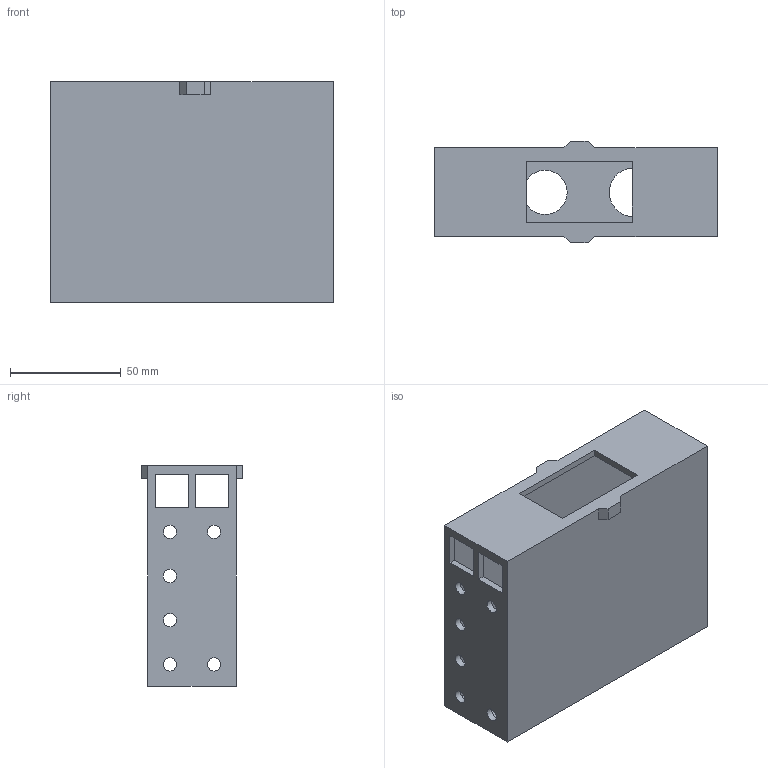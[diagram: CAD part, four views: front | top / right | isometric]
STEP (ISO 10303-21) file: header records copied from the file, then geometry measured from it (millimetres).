
FILE_DESCRIPTION(/* description */ (''),/* implementation_level */ '2;1');
FILE_NAME(/* name */ '/Users/davidflorian/Library/Mobile Documents/com~apple~CloudDocs/Vanderbilt/Papers/OTTO/Supplemental Material/3D-Printable-Components-STEP-Files/Female-AC-Connector-and-Emergency-Stop-Play-an- Pause-Buttons-Housing.step',/* time_stamp */ '2020-06-30T23:28:11-05:00',/* author */ (''),/* organization */ (''),/* preprocessor_version */ 'ST-DEVELOPER v18.1',/* originating_system */ 'Autodesk Translation Framework v9.3.0.1241',/* authorisation */ '');
FILE_SCHEMA (('AUTOMOTIVE_DESIGN { 1 0 10303 214 3 1 1 }'));
Length unit declared in the file: millimetre
Products named in the file (1): Button Input Housing
Bounding box: 128 x 46 x 100 mm (x, y, z)
Volume: 104037.3 mm3; surface area: 71833.3 mm2
Topology: 1 solids, 1 shells, 40 faces, 111 edges, 74 vertices
Faces by surface type: plane 31, cylinder 9
Full cylindrical faces by diameter (mm): 6 x6, 20 x2, 22 x1
Entity records: 1354 total; most frequent: CARTESIAN_POINT 226, ORIENTED_EDGE 222, DIRECTION 211, EDGE_CURVE 111, LINE 93, VECTOR 93, VERTEX_POINT 74, EDGE_LOOP 65
